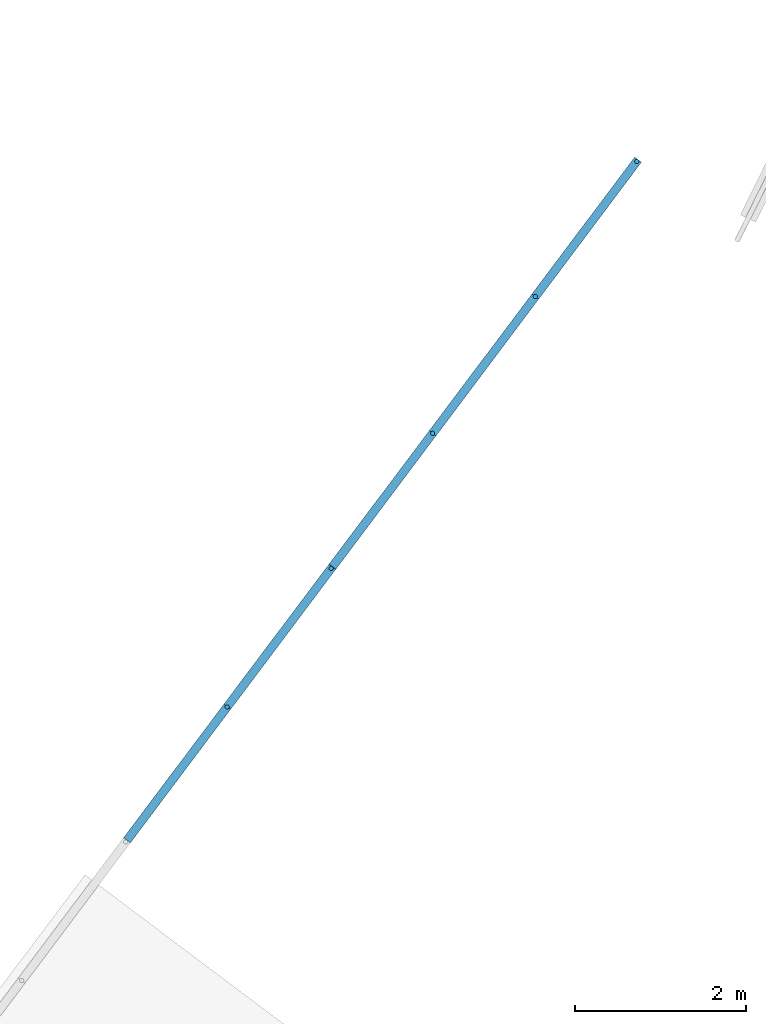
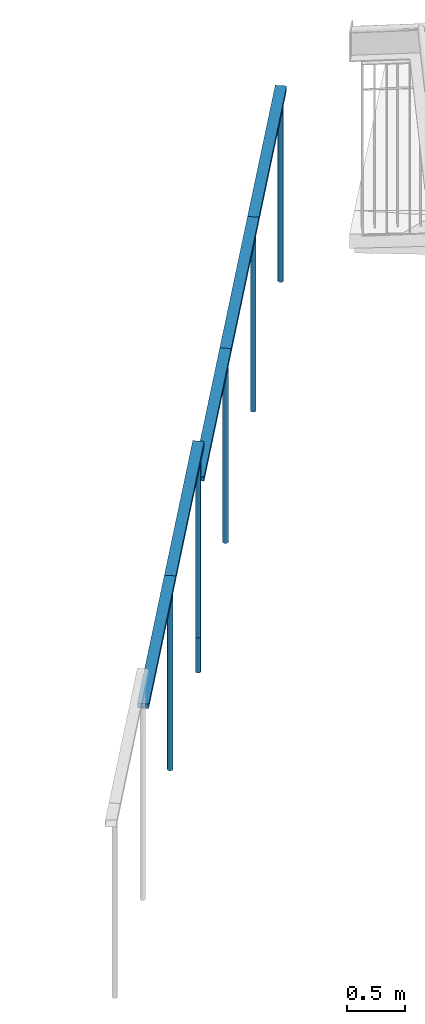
# One storey, part 18 of 33: 11 members, 2 elements without a shape of their own.
"""IFC2X3 building model written with IfcOpenShell, lengths in metres."""

import ifcopenshell
import ifcopenshell.guid

model = None  # the IFC model being written
_history = None  # IfcOwnerHistory: only IFC2X3 demands one
_inside = {}  # id of a spatial element -> (the spatial element, [elements in it])
_under = {}  # id of a project, library or spatial element -> (it, [spatial elements below it])
_declared = {}  # id of a project -> (the project, [libraries it declares])
_typed = {}  # id of a type object -> (the type object, [elements of that type])
_made_of = {}  # id of a material, layer set ... -> (it, [elements and type objects made of it])


def new_model(schema):
    """Start an empty IFC model of exactly this schema.

    Asked for "IFC4X3", IfcOpenShell would pick the latest addendum, in which some entities
    have other attributes; the version numbers below select the first issue.
    IFC2X3 requires an IfcOwnerHistory on every rooted entity: one is made here for all.
    """
    global model, _history
    if schema == "IFC4X3":
        model = ifcopenshell.file(schema_version=(4, 3, 0, 0))
    else:
        model = ifcopenshell.file(schema=schema)
    _inside.clear()
    _under.clear()
    _declared.clear()
    _typed.clear()
    _made_of.clear()
    _history = None
    if model.schema == "IFC2X3":
        org = make("IfcOrganization", Name="unknown")
        user = make(
            "IfcPersonAndOrganization",
            ThePerson=make("IfcPerson", FamilyName="unknown"),
            TheOrganization=org,
        )
        app = make(
            "IfcApplication",
            ApplicationDeveloper=org,
            Version="unknown",
            ApplicationFullName="unknown",
            ApplicationIdentifier="unknown",
        )
        _history = make(
            "IfcOwnerHistory",
            OwningUser=user,
            OwningApplication=app,
            ChangeAction="ADDED",
            CreationDate=0,
        )
    return model


def make(cls, **values):
    """One entity of the class cls with the attributes given. An attribute that is None is left unset."""
    return model.create_entity(
        cls, **{name: value for name, value in values.items() if value is not None}
    )


def entity(cls, *values):
    """Any entity or typed value of the class cls, its attributes in the order of the schema. None: left unset."""
    e = model.create_entity(cls)
    for i, value in enumerate(values):
        if value is not None:
            e[i] = value
    return e


def rooted(cls, **values):
    """An entity with a GlobalId (a new one), such as an element, a storey or a relation."""
    return make(cls, GlobalId=ifcopenshell.guid.new(), OwnerHistory=_history, **values)


def si_unit(unit_type, name, prefix=None):
    """IfcSIUnit, for example si_unit("LENGTHUNIT", "METRE", prefix="MILLI")."""
    return make("IfcSIUnit", UnitType=unit_type, Prefix=prefix, Name=name)


def converted_unit(unit_type, name, factor, base, dimensions=None, offset=None):
    """IfcConversionBasedUnit, such as the inch: factor (a typed value) times the base unit."""
    return make(
        "IfcConversionBasedUnit"
        if offset is None
        else "IfcConversionBasedUnitWithOffset",
        ConversionOffset=offset,
        Dimensions=None
        if dimensions is None
        else entity("IfcDimensionalExponents", *dimensions),
        UnitType=unit_type,
        Name=name,
        ConversionFactor=make(
            "IfcMeasureWithUnit", ValueComponent=factor, UnitComponent=base
        ),
    )


def derived_unit(unit_type, elements):
    """IfcDerivedUnit: a product of units, each with its exponent."""
    return make(
        "IfcDerivedUnit",
        Elements=[
            make("IfcDerivedUnitElement", Unit=unit, Exponent=power)
            for unit, power in elements
        ],
        UnitType=unit_type,
    )


def assignment(units):
    """IfcUnitAssignment: the units of a project."""
    return None if units is None else make("IfcUnitAssignment", Units=units)


def point(xyz):
    """IfcCartesianPoint."""
    return None if xyz is None else make("IfcCartesianPoint", Coordinates=xyz)


def direction(xyz):
    """IfcDirection."""
    return None if xyz is None else make("IfcDirection", DirectionRatios=xyz)


def frame(location, z_axis=None, x_axis=None):
    """IfcAxis2Placement3D, a coordinate frame: its origin and axes. An axis left out is left unset."""
    return make(
        "IfcAxis2Placement3D",
        Location=point(location),
        Axis=direction(z_axis),
        RefDirection=direction(x_axis),
    )


def frame_2d(location, x_axis=None):
    """IfcAxis2Placement2D, a coordinate frame in the plane: its origin and x axis."""
    return make(
        "IfcAxis2Placement2D", Location=point(location), RefDirection=direction(x_axis)
    )


def origin():
    """The frame at (0, 0, 0) with its axes left unset."""
    return frame((0.0, 0.0, 0.0))


def origin_2d_with_axis():
    """The frame at (0, 0) in the plane with the x axis (1, 0) written out."""
    return frame_2d((0.0, 0.0), x_axis=(1.0, 0.0))


def place(relative_to, where):
    """IfcLocalPlacement: puts the frame where relative to a parent placement (None: the world)."""
    return make(
        "IfcLocalPlacement", PlacementRelTo=relative_to, RelativePlacement=where
    )


def context(
    kind, dimensions, precision=None, world=None, true_north=None, identifier=None
):
    """IfcGeometricRepresentationContext, for example the 3D "Model" context."""
    return make(
        "IfcGeometricRepresentationContext",
        ContextIdentifier=identifier,
        ContextType=kind,
        CoordinateSpaceDimension=dimensions,
        Precision=precision,
        WorldCoordinateSystem=world,
        TrueNorth=true_north,
    )


def subcontext(parent, identifier, kind, view, scale=None):
    """IfcGeometricRepresentationSubContext, for example "Body" below "Model"."""
    return make(
        "IfcGeometricRepresentationSubContext",
        ContextIdentifier=identifier,
        ContextType=kind,
        ParentContext=parent,
        TargetScale=scale,
        TargetView=view,
    )


def project(units=None, contexts=None):
    """IfcProject with its units and contexts."""
    return rooted(
        "IfcProject",
        Name="project",
        RepresentationContexts=contexts,
        UnitsInContext=assignment(units),
    )


def spatial(cls, under=None, at=None, **own):
    """A site, building, storey or space (cls), placed at a placement, below another one or the project."""
    s = rooted(cls, ObjectPlacement=at, **own)
    if under is not None:
        _under.setdefault(under.id(), (under, []))[1].append(s)
    return s


def profile(cls, at=None, kind="AREA", **sizes):
    """A parametric profile (cls). Its sizes go by their IFC names, for example OverallWidth=200.0."""
    return make(cls, ProfileType=kind, Position=at, **sizes)


def rectangle(**sizes):
    """IfcRectangleProfileDef."""
    return profile("IfcRectangleProfileDef", **sizes)


def circle(**sizes):
    """IfcCircleProfileDef."""
    return profile("IfcCircleProfileDef", **sizes)


def extrude(swept, where, along, depth):
    """IfcExtrudedAreaSolid: the profile swept, set in the frame where, extruded along a direction by depth."""
    return make(
        "IfcExtrudedAreaSolid",
        SweptArea=swept,
        Position=where,
        ExtrudedDirection=direction(along),
        Depth=depth,
    )


def shape(context_of_items, identifier, shape_type, items):
    """IfcShapeRepresentation: the items that make up one representation, for example the "Body"."""
    return make(
        "IfcShapeRepresentation",
        ContextOfItems=context_of_items,
        RepresentationIdentifier=identifier,
        RepresentationType=shape_type,
        Items=items,
    )


def source(mapping_origin, context_of_items, identifier, shape_type, items):
    """IfcRepresentationMap: a shape defined once, which mapped items show again and again."""
    return make(
        "IfcRepresentationMap",
        MappingOrigin=mapping_origin,
        MappedRepresentation=shape(context_of_items, identifier, shape_type, items),
    )


def transform(
    local_origin,
    x_axis=None,
    y_axis=None,
    z_axis=None,
    scale=None,
    scale2=None,
    scale3=None,
    uniform=True,
):
    """IfcCartesianTransformationOperator3D, or its non-uniform kind. x_axis, y_axis, z_axis: its Axis1, 2, 3."""
    if uniform:
        return make(
            "IfcCartesianTransformationOperator3D",
            Axis1=direction(x_axis),
            Axis2=direction(y_axis),
            LocalOrigin=point(local_origin),
            Scale=scale,
            Axis3=direction(z_axis),
        )
    return make(
        "IfcCartesianTransformationOperator3DnonUniform",
        Axis1=direction(x_axis),
        Axis2=direction(y_axis),
        LocalOrigin=point(local_origin),
        Scale=scale,
        Axis3=direction(z_axis),
        Scale2=scale2,
        Scale3=scale3,
    )


def mapped(mapping_source, mapping_target):
    """IfcMappedItem: shows the shape of a source again, moved by a transform."""
    return make(
        "IfcMappedItem", MappingSource=mapping_source, MappingTarget=mapping_target
    )


def material(Name=None, Category=None):
    """IfcMaterial."""
    return make("IfcMaterial", Name=Name, Category=Category)


def made_of(thing, what):
    """Note that an element or type object is made of a material, layer set ...; save() writes the relation."""
    if what is not None:
        _made_of.setdefault(what.id(), (what, []))[1].append(thing)
    return thing


def type_object(cls, material=None, **own):
    """A type object (cls), such as IfcWallType, which elements share."""
    return made_of(rooted(cls, **own), material)


def type_shapes(of_type, sources):
    """Give a type object the sources (RepresentationMaps) that its elements show as mapped items."""
    of_type.RepresentationMaps = sources


def element(
    cls,
    number,
    at=None,
    inside=None,
    cuts=None,
    type_object=None,
    material=None,
    context=None,
    identifier="Body",
    shape_type=None,
    held_by="IfcProductDefinitionShape",
    body=None,
    shapes=None,
    **own,
):
    """One element of the class cls, such as IfcWall. Its Tag is "e" and its number.

    at: its placement. inside: the storey or other place that contains it. cuts: it is an
    opening in that element (IfcRelVoidsElement). A single representation is given by context,
    identifier, shape_type and body (its items); several are given by shapes. held_by: the class
    of the entity that holds the representations. save() writes the other relations.
    """
    e = rooted(cls, Tag="e%d" % number, ObjectPlacement=at, **own)
    if body is not None:
        shapes = [shape(context, identifier, shape_type, body)]
    if shapes is not None:
        e.Representation = make(held_by, Representations=shapes)
    if inside is not None:
        _inside.setdefault(inside.id(), (inside, []))[1].append(e)
    if cuts is not None:
        rooted(
            "IfcRelVoidsElement", RelatingBuildingElement=cuts, RelatedOpeningElement=e
        )
    if type_object is not None:
        _typed.setdefault(type_object.id(), (type_object, []))[1].append(e)
    return made_of(e, material)


def aggregate(whole, parts):
    """IfcRelAggregates: a whole, such as a stair, and the parts it consists of."""
    return rooted("IfcRelAggregates", RelatingObject=whole, RelatedObjects=parts)


def save(model, path):
    """Write the relations noted so far, then the file.

    IfcRelAggregates (storeys below a building ...), IfcRelContainedInSpatialStructure (elements
    in a storey), IfcRelDefinesByType, IfcRelAssociatesMaterial and IfcRelDeclares: one each for
    every whole, place, type object, material and project.
    """
    for whole, parts in _under.values():
        aggregate(whole, parts)
    for where, things in _inside.values():
        rooted(
            "IfcRelContainedInSpatialStructure",
            RelatedElements=things,
            RelatingStructure=where,
        )
    for kind, things in _typed.values():
        rooted("IfcRelDefinesByType", RelatedObjects=things, RelatingType=kind)
    for what, things in _made_of.values():
        rooted("IfcRelAssociatesMaterial", RelatedObjects=things, RelatingMaterial=what)
    for by, libraries in _declared.values():
        rooted("IfcRelDeclares", RelatingContext=by, RelatedDefinitions=libraries)
    model.write(path)


model = new_model("IFC2X3")

# Units and contexts
model_context = context("Model", 3, precision=1e-05, world=origin(), true_north=direction((6.123031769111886e-17, 1.0)))
body_context = subcontext(model_context, "Body", "Model", "MODEL_VIEW")
ifc_project = project(units=[si_unit("LENGTHUNIT", "METRE"), si_unit("AREAUNIT", "SQUARE_METRE"), si_unit("VOLUMEUNIT", "CUBIC_METRE"), converted_unit("PLANEANGLEUNIT", "DEGREE", entity("IfcRatioMeasure", 0.017453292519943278), si_unit("PLANEANGLEUNIT", "RADIAN"), dimensions=[0, 0, 0, 0, 0, 0, 0]), si_unit("MASSUNIT", "GRAM", prefix="KILO"), derived_unit("MASSDENSITYUNIT", [(si_unit("MASSUNIT", "GRAM", prefix="KILO"), 1), (si_unit("LENGTHUNIT", "METRE"), -3)]), derived_unit("IONCONCENTRATIONUNIT", [(si_unit("MASSUNIT", "GRAM", prefix="KILO"), 1), (si_unit("LENGTHUNIT", "METRE"), -3)]), derived_unit("MOMENTOFINERTIAUNIT", [(si_unit("LENGTHUNIT", "METRE"), 4)]), si_unit("TIMEUNIT", "SECOND"), si_unit("FREQUENCYUNIT", "HERTZ"), si_unit("THERMODYNAMICTEMPERATUREUNIT", "DEGREE_CELSIUS"), derived_unit("THERMALTRANSMITTANCEUNIT", [(si_unit("MASSUNIT", "GRAM", prefix="KILO"), 1), (si_unit("THERMODYNAMICTEMPERATUREUNIT", "KELVIN"), -1), (si_unit("TIMEUNIT", "SECOND"), -3)]), derived_unit("THERMALCONDUCTANCEUNIT", [(si_unit("MASSUNIT", "GRAM", prefix="KILO"), 1), (si_unit("THERMODYNAMICTEMPERATUREUNIT", "KELVIN"), -1), (si_unit("TIMEUNIT", "SECOND"), -3), (si_unit("LENGTHUNIT", "METRE"), 1)]), derived_unit("VOLUMETRICFLOWRATEUNIT", [(si_unit("LENGTHUNIT", "METRE"), 3), (si_unit("TIMEUNIT", "SECOND"), -1)]), derived_unit("MASSFLOWRATEUNIT", [(si_unit("MASSUNIT", "GRAM", prefix="KILO"), 1), (si_unit("TIMEUNIT", "SECOND"), -1)]), derived_unit("ROTATIONALFREQUENCYUNIT", [(si_unit("TIMEUNIT", "SECOND"), -1)]), si_unit("ELECTRICCURRENTUNIT", "AMPERE"), si_unit("ELECTRICVOLTAGEUNIT", "VOLT"), si_unit("POWERUNIT", "WATT"), si_unit("FORCEUNIT", "NEWTON", prefix="KILO"), si_unit("ILLUMINANCEUNIT", "LUX"), si_unit("LUMINOUSFLUXUNIT", "LUMEN"), si_unit("LUMINOUSINTENSITYUNIT", "CANDELA"), derived_unit("USERDEFINED", [(si_unit("MASSUNIT", "GRAM", prefix="KILO"), -1), (si_unit("LENGTHUNIT", "METRE"), -2), (si_unit("TIMEUNIT", "SECOND"), 3), (si_unit("LUMINOUSFLUXUNIT", "LUMEN"), 1)]), derived_unit("USERDEFINED", [(si_unit("MASSUNIT", "GRAM", prefix="KILO"), 1), (si_unit("TIMEUNIT", "SECOND"), -3), (si_unit("LENGTHUNIT", "METRE"), 3), (si_unit("ELECTRICCURRENTUNIT", "AMPERE"), -2)]), derived_unit("SOUNDPOWERUNIT", [(si_unit("MASSUNIT", "GRAM", prefix="KILO"), 1), (si_unit("TIMEUNIT", "SECOND"), -3), (si_unit("LENGTHUNIT", "METRE"), 2)]), derived_unit("SOUNDPRESSUREUNIT", [(si_unit("MASSUNIT", "GRAM", prefix="KILO"), 1), (si_unit("LENGTHUNIT", "METRE"), -1), (si_unit("TIMEUNIT", "SECOND"), -2)]), derived_unit("LINEARVELOCITYUNIT", [(si_unit("LENGTHUNIT", "METRE"), 1), (si_unit("TIMEUNIT", "SECOND"), -1)]), si_unit("PRESSUREUNIT", "PASCAL"), derived_unit("USERDEFINED", [(si_unit("MASSUNIT", "GRAM", prefix="KILO"), 1), (si_unit("LENGTHUNIT", "METRE"), -2), (si_unit("TIMEUNIT", "SECOND"), -2)]), derived_unit("LINEARFORCEUNIT", [(si_unit("MASSUNIT", "GRAM", prefix="KILO"), 1), (si_unit("TIMEUNIT", "SECOND"), -2)]), derived_unit("PLANARFORCEUNIT", [(si_unit("MASSUNIT", "GRAM", prefix="KILO"), 1), (si_unit("LENGTHUNIT", "METRE"), -1), (si_unit("TIMEUNIT", "SECOND"), -2)]), derived_unit("SPECIFICHEATCAPACITYUNIT", [(si_unit("THERMODYNAMICTEMPERATUREUNIT", "KELVIN"), -1), (si_unit("LENGTHUNIT", "METRE"), 2), (si_unit("TIMEUNIT", "SECOND"), -2)]), derived_unit("HEATINGVALUEUNIT", [(si_unit("LENGTHUNIT", "METRE"), 2), (si_unit("TIMEUNIT", "SECOND"), -2)]), derived_unit("VAPORPERMEABILITYUNIT", [(si_unit("LENGTHUNIT", "METRE"), -1), (si_unit("TIMEUNIT", "SECOND"), 1)]), derived_unit("DYNAMICVISCOSITYUNIT", [(si_unit("MASSUNIT", "GRAM", prefix="KILO"), 1), (si_unit("TIMEUNIT", "SECOND"), -1), (si_unit("LENGTHUNIT", "METRE"), -1)]), derived_unit("THERMALEXPANSIONCOEFFICIENTUNIT", [(si_unit("THERMODYNAMICTEMPERATUREUNIT", "KELVIN"), -1)]), derived_unit("MODULUSOFELASTICITYUNIT", [(si_unit("MASSUNIT", "GRAM", prefix="KILO"), 1), (si_unit("LENGTHUNIT", "METRE"), -1), (si_unit("TIMEUNIT", "SECOND"), -2)]), derived_unit("ISOTHERMALMOISTURECAPACITYUNIT", [(si_unit("LENGTHUNIT", "METRE"), 3), (si_unit("MASSUNIT", "GRAM", prefix="KILO"), -1)]), derived_unit("MOISTUREDIFFUSIVITYUNIT", [(si_unit("TIMEUNIT", "SECOND"), -1), (si_unit("LENGTHUNIT", "METRE"), 2)])], contexts=[model_context])

# Site, building, storey
site_placement = place(None, origin())
site = spatial("IfcSite", under=ifc_project, at=site_placement, Name="Superficie", CompositionType="ELEMENT")
building_placement = place(site_placement, frame((0.0, 0.0, 235.0), z_axis=(0.0, 0.0, 1.0), x_axis=(-0.7996477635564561, 0.6004693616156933, 0.0)))
building = spatial("IfcBuilding", under=site, at=building_placement, CompositionType="ELEMENT")
storey_placement = place(building_placement, origin())
storey = spatial("IfcBuildingStorey", under=building, at=storey_placement, Name="P0- Escola", CompositionType="ELEMENT", Elevation=0.0)

# Curtain wall, member
curtain_wall_type = type_object("IfcCurtainWallType", Name="Muro cortina:SER EXT- Tanca exterior", PredefinedType="NOTDEFINED")
curtain_wall_1_placement = place(storey_placement, origin())
curtain_wall_1 = element("IfcCurtainWall", 1, at=curtain_wall_1_placement, inside=storey, type_object=curtain_wall_type, Name="Muro cortina:SER EXT- Tanca exterior", ObjectType="Muro cortina:SER EXT- Tanca exterior")
ifc_material_1 = material(Name="Acero inoxidable")
member_type_1 = type_object("IfcMemberType", Name="Montante circular:Perfil Tanca exterior", PredefinedType="MULLION", material=ifc_material_1)
shared_shape_1 = source(origin(), body_context, "Body", "SweptSolid", [
    extrude(circle(Radius=0.025, at=frame_2d((-2.1149748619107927e-18, -4.0388614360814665e-17), x_axis=(1.0, 0.0))), frame((0.0, 0.0, -2.0), z_axis=(0.0, 0.0, 1.0), x_axis=(-1.0, 0.0, 0.0)), (0.0, 0.0, 1.0), 1.9999999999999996),
])
type_shapes(member_type_1, [shared_shape_1])
member_1_placement = place(curtain_wall_1_placement, frame((79.69492201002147, -52.14728884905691, -1.5969999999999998), z_axis=(0.0, 0.0, -1.0), x_axis=(0.0, -1.0, 0.0)))
member_1 = element("IfcMember", 2, at=member_1_placement, type_object=member_type_1, material=ifc_material_1, Name="Montante circular:Perfil Tanca exterior", ObjectType="Montante circular:Perfil Tanca exterior", context=body_context, shape_type="MappedRepresentation", body=[
    mapped(shared_shape_1, transform((0.0, 0.0, 0.0), scale=1.0)),
])

# Curtain wall, members
curtain_wall_2_placement = place(storey_placement, origin())
curtain_wall_2 = element("IfcCurtainWall", 3, at=curtain_wall_2_placement, inside=storey, type_object=curtain_wall_type, Name="Muro cortina:SER EXT- Tanca exterior", ObjectType="Muro cortina:SER EXT- Tanca exterior")
member_2_placement = place(curtain_wall_2_placement, frame((79.69492201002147, -56.147288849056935, -1.97), z_axis=(0.0, 0.0, -1.0), x_axis=(0.0, -1.0, 0.0)))
member_2 = element("IfcMember", 4, at=member_2_placement, type_object=member_type_1, material=ifc_material_1, Name="Montante circular:Perfil Tanca exterior", ObjectType="Montante circular:Perfil Tanca exterior", context=body_context, shape_type="MappedRepresentation", body=[
    mapped(shared_shape_1, transform((0.0, 0.0, 0.0), scale=1.0)),
])
member_3_placement = place(curtain_wall_2_placement, frame((79.69492201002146, -58.14728884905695, -1.97), z_axis=(0.0, 0.0, -1.0), x_axis=(0.0, -1.0, 0.0)))
member_3 = element("IfcMember", 5, at=member_3_placement, type_object=member_type_1, material=ifc_material_1, Name="Montante circular:Perfil Tanca exterior", ObjectType="Montante circular:Perfil Tanca exterior", context=body_context, shape_type="MappedRepresentation", body=[
    mapped(shared_shape_1, transform((0.0, 0.0, 0.0), scale=1.0)),
])

# Member
member_type_2 = type_object("IfcMemberType", Name="Montante circular:Perfil Tanca exterior", PredefinedType="MULLION", material=ifc_material_1)
shared_shape_2 = source(origin(), body_context, "Body", "SweptSolid", [
    extrude(circle(Radius=0.025, at=frame_2d((1.3661718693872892e-31, -4.46185640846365e-17), x_axis=(1.0, 0.0))), frame((-0.025, 0.0, -2.0), z_axis=(0.0, 0.0, 1.0), x_axis=(-1.0, 0.0, 0.0)), (0.0, 0.0, 1.0), 1.9999999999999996),
])
type_shapes(member_type_2, [shared_shape_2])
member_4_placement = place(curtain_wall_1_placement, frame((79.69492201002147, -54.19728884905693, -1.5969999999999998), z_axis=(0.0, 0.0, -1.0), x_axis=(0.0, -1.0, 0.0)))
member_4 = element("IfcMember", 6, at=member_4_placement, type_object=member_type_2, material=ifc_material_1, Name="Montante circular:Perfil Tanca exterior", ObjectType="Montante circular:Perfil Tanca exterior", context=body_context, shape_type="MappedRepresentation", body=[
    mapped(shared_shape_2, transform((0.0, 0.0, 0.0), scale=1.0)),
])

member_5_placement = place(curtain_wall_2_placement, frame((79.69492201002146, -60.14728884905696, -1.97), z_axis=(0.0, 0.0, -1.0), x_axis=(0.0, -1.0, 0.0)))
member_5 = element("IfcMember", 7, at=member_5_placement, type_object=member_type_2, material=ifc_material_1, Name="Montante circular:Perfil Tanca exterior", ObjectType="Montante circular:Perfil Tanca exterior", context=body_context, shape_type="MappedRepresentation", body=[
    mapped(shared_shape_2, transform((0.0, 0.0, 0.0), scale=1.0)),
])

ifc_material_2 = material(Name="_Formigó- Solera- T1- STR")
member_type_3 = type_object("IfcMemberType", Name="Montante rectangular:Montante rectangular 100x50", PredefinedType="MULLION", material=ifc_material_2)
shared_shape_3 = source(origin(), body_context, "Body", "SweptSolid", [
    extrude(rectangle(XDim=0.1, YDim=0.05000000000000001, at=origin_2d_with_axis()), frame((-0.025000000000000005, 0.0, -1.999999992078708), z_axis=(0.0, 0.0, 1.0), x_axis=(0.0, -1.0, 0.0)), (0.0, 0.0, 1.0), 1.9999999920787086),
])
type_shapes(member_type_3, [shared_shape_3])
member_6_placement = place(curtain_wall_2_placement, frame((79.69492201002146, -60.14728884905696, 0.07999999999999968), z_axis=(0.0, -1.0, 0.0), x_axis=(0.0, 0.0, 1.0)))
member_6 = element("IfcMember", 8, at=member_6_placement, type_object=member_type_3, material=ifc_material_2, Name="Montante rectangular:Montante rectangular 100x50", ObjectType="Montante rectangular:Montante rectangular 100x50", context=body_context, shape_type="MappedRepresentation", body=[
    mapped(shared_shape_3, transform((0.0, 0.0, 0.0), scale=1.0)),
])

member_type_4 = type_object("IfcMemberType", Name="Montante circular:Perfil Tanca exterior", PredefinedType="MULLION", material=ifc_material_1)
shared_shape_4 = source(origin(), body_context, "Body", "SweptSolid", [
    extrude(circle(Radius=0.025, at=frame_2d((-1.304992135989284e-31, 4.038861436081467e-17), x_axis=(1.0, 0.0))), frame((-0.025, 0.0, -2.0500000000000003)), (0.0, 0.0, 1.0), 2.0500000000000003),
])
type_shapes(member_type_4, [shared_shape_4])
member_7_placement = place(curtain_wall_2_placement, frame((79.69492201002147, -54.14728884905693, 0.07999999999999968), z_axis=(0.0, 0.0, 1.0), x_axis=(0.0, 1.0, 0.0)))
member_7 = element("IfcMember", 9, at=member_7_placement, type_object=member_type_4, material=ifc_material_1, Name="Montante circular:Perfil Tanca exterior", ObjectType="Montante circular:Perfil Tanca exterior", context=body_context, shape_type="MappedRepresentation", body=[
    mapped(shared_shape_4, transform((0.0, 0.0, 0.0), scale=1.0)),
])

member_type_5 = type_object("IfcMemberType", Name="Montante rectangular:Montante rectangular 100x50", PredefinedType="MULLION", material=ifc_material_2)
shared_shape_5 = source(origin(), body_context, "Body", "SweptSolid", [
    extrude(rectangle(XDim=0.1, YDim=0.05000000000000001, at=origin_2d_with_axis()), frame((-0.025000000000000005, 0.0, -2.049999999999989), z_axis=(0.0, 0.0, 1.0), x_axis=(0.0, -1.0, 0.0)), (0.0, 0.0, 1.0), 2.049999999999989),
])
type_shapes(member_type_5, [shared_shape_5])
member_8_placement = place(curtain_wall_1_placement, frame((79.69492201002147, -54.19728884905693, 0.4529999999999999), z_axis=(0.0, -1.0, 0.0), x_axis=(0.0, 0.0, 1.0)))
member_8 = element("IfcMember", 10, at=member_8_placement, type_object=member_type_5, material=ifc_material_2, Name="Montante rectangular:Montante rectangular 100x50", ObjectType="Montante rectangular:Montante rectangular 100x50", context=body_context, shape_type="MappedRepresentation", body=[
    mapped(shared_shape_5, transform((0.0, 0.0, 0.0), scale=1.0)),
])

member_type_6 = type_object("IfcMemberType", Name="Montante rectangular:Montante rectangular 100x50", PredefinedType="MULLION", material=ifc_material_2)
shared_shape_6 = source(origin(), body_context, "Body", "SweptSolid", [
    extrude(rectangle(XDim=0.1, YDim=0.05000000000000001, at=origin_2d_with_axis()), frame((-0.025000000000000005, 0.0, -1.9500000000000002), z_axis=(0.0, 0.0, 1.0), x_axis=(0.0, -1.0, 0.0)), (0.0, 0.0, 1.0), 1.9500000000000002),
])
type_shapes(member_type_6, [shared_shape_6])
member_9_placement = place(curtain_wall_1_placement, frame((79.69492201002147, -52.14728884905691, 0.4529999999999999), z_axis=(0.0, -1.0, 0.0), x_axis=(0.0, 0.0, 1.0)))
member_9 = element("IfcMember", 11, at=member_9_placement, type_object=member_type_6, material=ifc_material_2, Name="Montante rectangular:Montante rectangular 100x50", ObjectType="Montante rectangular:Montante rectangular 100x50", context=body_context, shape_type="MappedRepresentation", body=[
    mapped(shared_shape_6, transform((0.0, 0.0, 0.0), scale=1.0)),
])

aggregate(curtain_wall_1, [member_1, member_4, member_8, member_9])

member_10_placement = place(curtain_wall_2_placement, frame((79.69492201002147, -56.147288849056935, 0.07999999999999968), z_axis=(0.0, -1.0, 0.0), x_axis=(0.0, 0.0, 1.0)))
member_10 = element("IfcMember", 12, at=member_10_placement, type_object=member_type_6, material=ifc_material_2, Name="Montante rectangular:Montante rectangular 100x50", ObjectType="Montante rectangular:Montante rectangular 100x50", context=body_context, shape_type="MappedRepresentation", body=[
    mapped(shared_shape_6, transform((0.0, 0.0, 0.0), scale=1.0)),
])

member_type_7 = type_object("IfcMemberType", Name="Montante rectangular:Montante rectangular 100x50", PredefinedType="MULLION", material=ifc_material_2)
shared_shape_7 = source(origin(), body_context, "Body", "SweptSolid", [
    extrude(rectangle(XDim=0.1, YDim=0.05000000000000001, at=origin_2d_with_axis()), frame((-0.025000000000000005, 0.0, -2.0), z_axis=(0.0, 0.0, 1.0), x_axis=(0.0, -1.0, 0.0)), (0.0, 0.0, 1.0), 2.0000000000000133),
])
type_shapes(member_type_7, [shared_shape_7])
member_11_placement = place(curtain_wall_2_placement, frame((79.69492201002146, -58.14728884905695, 0.07999999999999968), z_axis=(0.0, -1.0, 0.0), x_axis=(0.0, 0.0, 1.0)))
member_11 = element("IfcMember", 13, at=member_11_placement, type_object=member_type_7, material=ifc_material_2, Name="Montante rectangular:Montante rectangular 100x50", ObjectType="Montante rectangular:Montante rectangular 100x50", context=body_context, shape_type="MappedRepresentation", body=[
    mapped(shared_shape_7, transform((0.0, 0.0, 0.0), scale=1.0)),
])

aggregate(curtain_wall_2, [member_7, member_2, member_3, member_5, member_6, member_10, member_11])

save(model, "model.ifc")
